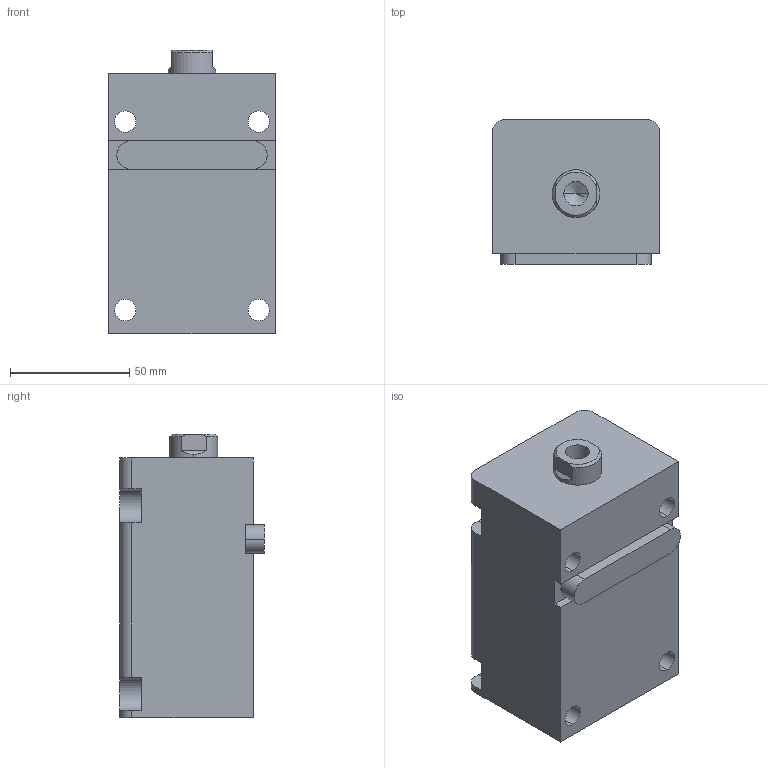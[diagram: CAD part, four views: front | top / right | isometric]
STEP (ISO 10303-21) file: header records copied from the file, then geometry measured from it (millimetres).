
FILE_DESCRIPTION (( 'STEP AP203' ), '1' );
FILE_NAME ('HTB-LA32-55N.STEP', '2019-10-09T06:28:50', ( '微软用户' ), ( '微软中国' ), 'SwSTEP 2.0', 'SolidWorks 2012', '' );
FILE_SCHEMA (( 'CONFIG_CONTROL_DESIGN' ));
Length unit declared in the file: millimetre
Products named in the file (4): HTB-LA32-55掛极; HTB-LA32-55N活塞杆; HTB-LA32-瑩; HTB-LA32-55N
Assembly tree (3 placements, depth 2):
  HTB-LA32-55N
    HTB-LA32-55掛极
    HTB-LA32-55N活塞杆
    HTB-LA32-瑩
Bounding box: 70 x 60.5 x 119 mm (x, y, z)
Volume: 383702.7 mm3; surface area: 63608.5 mm2
Topology: 3 solids, 3 shells, 88 faces, 217 edges, 141 vertices
Faces by surface type: plane 39, cylinder 35, cone 8, torus 6
Entity records: 3053 total; most frequent: DIRECTION 487, CARTESIAN_POINT 478, ORIENTED_EDGE 430, EDGE_CURVE 215, AXIS2_PLACEMENT_3D 186, VERTEX_POINT 141, VECTOR 115, LINE 115
